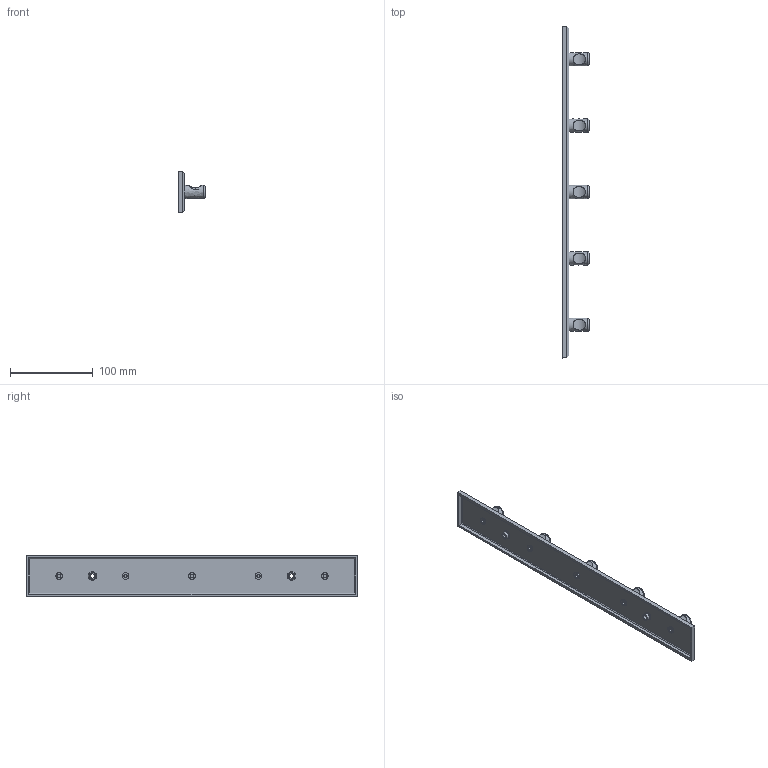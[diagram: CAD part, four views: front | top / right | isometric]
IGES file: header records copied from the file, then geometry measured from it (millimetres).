
Start section: C
Global section: file name: 8170.igs; native system: By Siemens PLM Incorporated; preprocessor: XPlus GENERIC/IGES 16.0.42; author: Author; organization: Title; date: 20231119.135255; units: millimetre
Bounding box: 33.02 x 400 x 50 mm (x, y, z)
Surface area: 65979.3 mm2 (no closed solid volume)
Topology: 0 solids, 0 shells, 176 faces, 919 edges, 914 vertices
Faces by surface type: bspline 176
